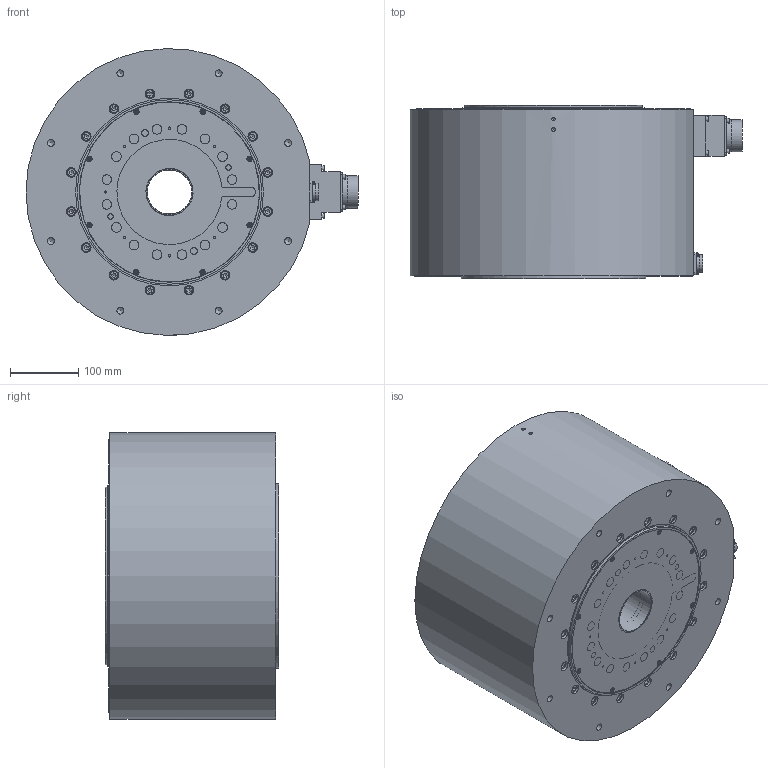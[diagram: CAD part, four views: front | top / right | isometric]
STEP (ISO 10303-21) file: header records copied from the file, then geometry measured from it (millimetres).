
FILE_DESCRIPTION (( 'STEP AP203' ), '1' );
FILE_NAME ('DD400-250-LSP5(2rps_ABS).STEP', '2020-03-13T08:19:32', ( '' ), ( '' ), 'SwSTEP 2.0', 'SolidWorks 2018', '' );
FILE_SCHEMA (( 'CONFIG_CONTROL_DESIGN' ));
Length unit declared in the file: millimetre
Products named in the file (1): DD400-250-LSP5(2rps_ABS)
Bounding box: 485.9 x 253.9 x 420 mm (x, y, z)
Volume: 14170244.2 mm3; surface area: 1634487.4 mm2
Topology: 53 solids, 53 shells, 1180 faces, 2913 edges, 1874 vertices
Faces by surface type: cylinder 536, plane 378, cone 187, torus 41, sphere 34, bspline 4
Full cylindrical faces by diameter (mm): 2.5 x22, 3 x7, 3.3 x33, 4 x30, 4.39 x4, 4.5 x4, 5 x24, 5.5 x4, 7 x8, 8 x20, 10 x2, 10.2 x16, 13 x16, 14 x33, 16 x1, 24.5 x1, 25.7 x2, 47.2 x2, 52 x1, 65 x1, 68 x1, 68.5 x1, 69 x1, 88 x1, 94 x1, 115 x1, 135 x1, 154 x1, 169 x2, 200 x1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
Entity records: 34034 total; most frequent: CARTESIAN_POINT 9289, DIRECTION 5099, ORIENTED_EDGE 4400, EDGE_CURVE 2200, AXIS2_PLACEMENT_3D 2154, EDGE_LOOP 1856, VERTEX_POINT 1646, FACE_OUTER_BOUND 1467
